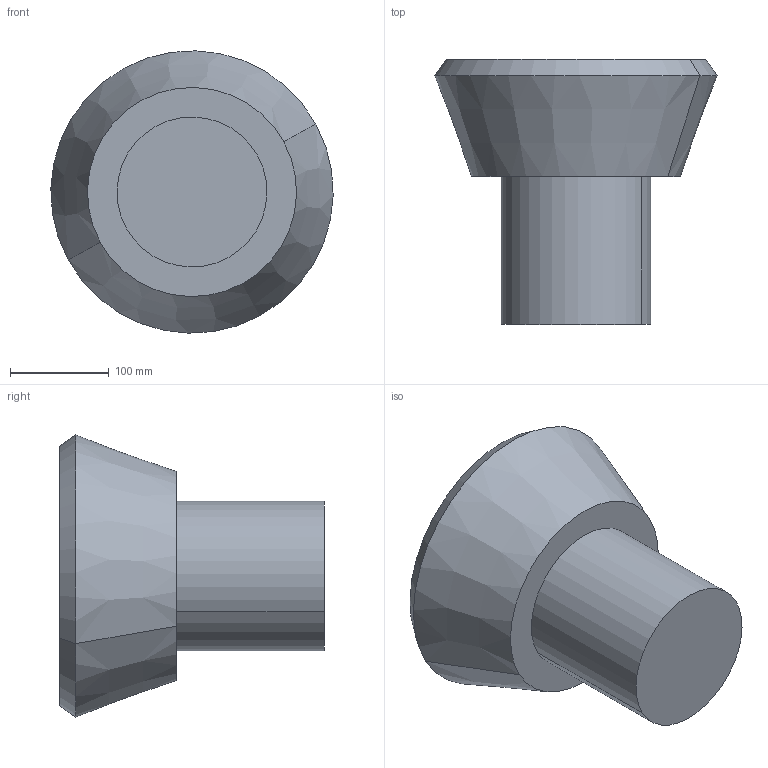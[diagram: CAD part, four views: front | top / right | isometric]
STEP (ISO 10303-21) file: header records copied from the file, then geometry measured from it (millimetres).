
FILE_DESCRIPTION(('CATIA V5 STEP Exchange'),'2;1');
FILE_NAME('C:\_Andres\UNIVERSIDAD\IQS\ASIGNATURAS\DAO\EXF\EXF-15161c\1original\Molins_Gutiérrez_Ej09-optimiza_v16.stp','2016-03-04T21:55:29+00:00',('none'),('none'),'CATIA Version 5 Release 20 SP 1 (IN-10)','CATIA V5 STEP AP203','none');
FILE_SCHEMA(('CONFIG_CONTROL_DESIGN'));
Length unit declared in the file: millimetre
Products named in the file (1): Molins_Gutiérrez_Ej09-optimiza_v16
Bounding box: 286.18 x 268.4 x 286.18 mm (x, y, z)
Volume: 8685102.2 mm3; surface area: 268019.7 mm2
Topology: 1 solids, 2 shells, 13 faces, 22 edges, 14 vertices
Faces by surface type: plane 5, cylinder 4, cone 4
Entity records: 324 total; most frequent: CARTESIAN_POINT 47, ORIENTED_EDGE 44, DIRECTION 42, AXIS2_PLACEMENT_3D 25, EDGE_CURVE 22, CIRCLE 14, EDGE_LOOP 14, VERTEX_POINT 14
